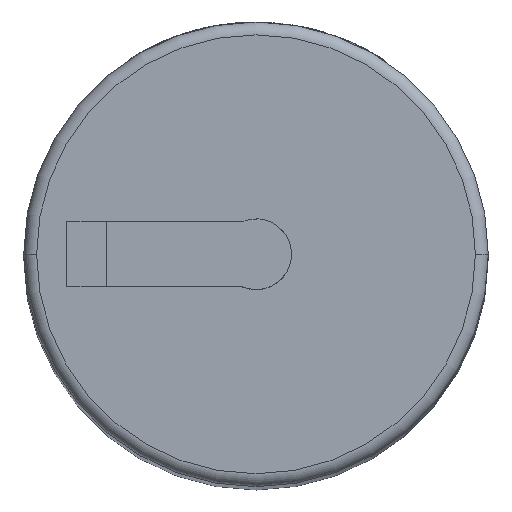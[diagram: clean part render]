
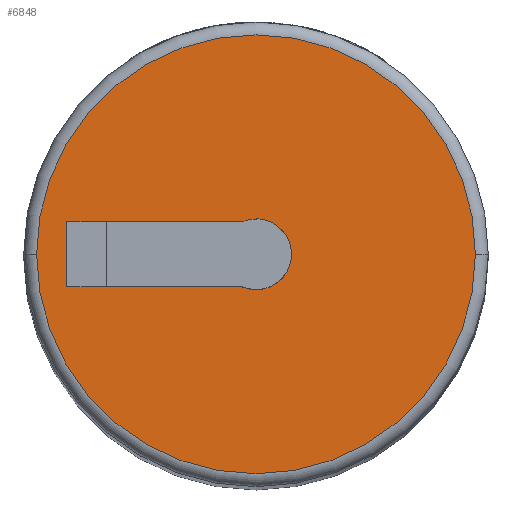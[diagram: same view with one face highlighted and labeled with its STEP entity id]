
A CAD part, top view. The second image highlights one B-rep face of the part: STEP entity #6848.
In plain terms, the highlighted planar face has unit normal (0, 0, 1).
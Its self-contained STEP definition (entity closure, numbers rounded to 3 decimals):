
#1612=CARTESIAN_POINT('',(0.,0.,74.25));
#1613=DIRECTION('',(0.,0.,1.));
#1614=DIRECTION('',(-1.,0.,0.));
#1615=AXIS2_PLACEMENT_3D('',#1612,#1613,#1614);
#1617=CARTESIAN_POINT('',(0.,0.,74.25));
#1618=DIRECTION('',(0.,0.,1.));
#1619=DIRECTION('',(1.,0.,0.));
#1620=AXIS2_PLACEMENT_3D('',#1617,#1618,#1619);
#1622=CARTESIAN_POINT('',(0.01,0.,74.25));
#1623=DIRECTION('',(0.,0.,1.));
#1624=DIRECTION('',(1.,0.,0.));
#1625=AXIS2_PLACEMENT_3D('',#1622,#1623,#1624);
#1627=CARTESIAN_POINT('',(0.01,0.,74.25));
#1628=DIRECTION('',(0.,0.,1.));
#1629=DIRECTION('',(-1.,0.,0.));
#1630=AXIS2_PLACEMENT_3D('',#1627,#1628,#1629);
#1632=DIRECTION('',(1.,0.,0.));
#1633=VECTOR('',#1632,6.464);
#1634=CARTESIAN_POINT('',(-14.662,-2.5,74.25));
#1635=LINE('',#1634,#1633);
#1636=DIRECTION('',(0.,1.,0.));
#1637=VECTOR('',#1636,5.);
#1638=CARTESIAN_POINT('',(-8.198,-2.5,74.25));
#1639=LINE('',#1638,#1637);
#1640=DIRECTION('',(1.,0.,0.));
#1641=VECTOR('',#1640,6.464);
#1642=CARTESIAN_POINT('',(-14.662,2.5,74.25));
#1643=LINE('',#1642,#1641);
#1644=DIRECTION('',(0.,1.,0.));
#1645=VECTOR('',#1644,5.);
#1646=CARTESIAN_POINT('',(-14.662,-2.5,74.25));
#1647=LINE('',#1646,#1645);
#5182=CARTESIAN_POINT('',(-17.,0.,74.25));
#5183=CARTESIAN_POINT('',(17.,0.,74.25));
#5184=VERTEX_POINT('',#5182);
#5185=VERTEX_POINT('',#5183);
#5190=CARTESIAN_POINT('',(2.747,0.,74.25));
#5191=CARTESIAN_POINT('',(-2.726,0.,74.25));
#5192=VERTEX_POINT('',#5190);
#5193=VERTEX_POINT('',#5191);
#5212=CARTESIAN_POINT('',(-14.662,-2.5,74.25));
#5213=CARTESIAN_POINT('',(-8.198,-2.5,74.25));
#5214=VERTEX_POINT('',#5212);
#5215=VERTEX_POINT('',#5213);
#5216=CARTESIAN_POINT('',(-14.662,2.5,74.25));
#5217=CARTESIAN_POINT('',(-8.198,2.5,74.25));
#5218=VERTEX_POINT('',#5216);
#5219=VERTEX_POINT('',#5217);
#6822=CARTESIAN_POINT('',(0.,0.,74.25));
#6823=DIRECTION('',(0.,0.,1.));
#6824=DIRECTION('',(1.,0.,0.));
#6825=AXIS2_PLACEMENT_3D('',#6822,#6823,#6824);
#6826=PLANE('',#6825);
#6828=ORIENTED_EDGE('',*,*,#6827,.F.);
#6829=ORIENTED_EDGE('',*,*,#6812,.F.);
#6830=EDGE_LOOP('',(#6828,#6829));
#6831=FACE_OUTER_BOUND('',#6830,.F.);
#6833=ORIENTED_EDGE('',*,*,#6832,.T.);
#6835=ORIENTED_EDGE('',*,*,#6834,.T.);
#6836=EDGE_LOOP('',(#6833,#6835));
#6837=FACE_BOUND('',#6836,.F.);
#6839=ORIENTED_EDGE('',*,*,#6838,.T.);
#6841=ORIENTED_EDGE('',*,*,#6840,.T.);
#6843=ORIENTED_EDGE('',*,*,#6842,.F.);
#6845=ORIENTED_EDGE('',*,*,#6844,.F.);
#6846=EDGE_LOOP('',(#6839,#6841,#6843,#6845));
#6847=FACE_BOUND('',#6846,.F.);
#6848=ADVANCED_FACE('',(#6831,#6837,#6847),#6826,.T.);
#1616=CIRCLE('',#1615,17.);
#1621=CIRCLE('',#1620,17.);
#1626=CIRCLE('',#1625,2.736);
#1631=CIRCLE('',#1630,2.736);
#6812=EDGE_CURVE('',#5185,#5184,#1621,.T.);
#6827=EDGE_CURVE('',#5184,#5185,#1616,.T.);
#6832=EDGE_CURVE('',#5192,#5193,#1626,.T.);
#6834=EDGE_CURVE('',#5193,#5192,#1631,.T.);
#6838=EDGE_CURVE('',#5214,#5215,#1635,.T.);
#6840=EDGE_CURVE('',#5215,#5219,#1639,.T.);
#6842=EDGE_CURVE('',#5218,#5219,#1643,.T.);
#6844=EDGE_CURVE('',#5214,#5218,#1647,.T.);
